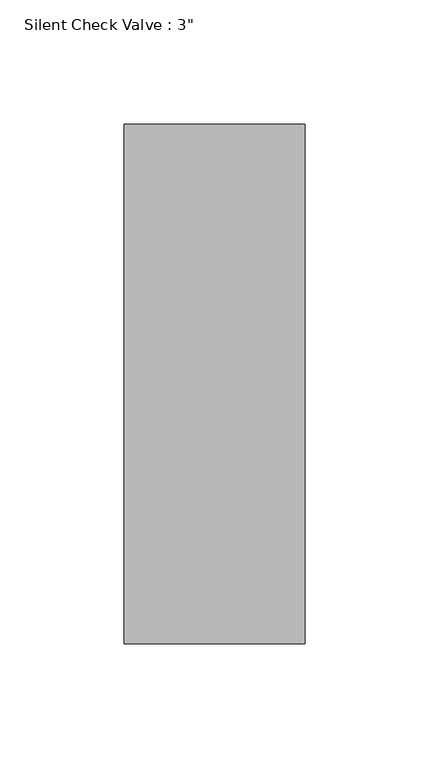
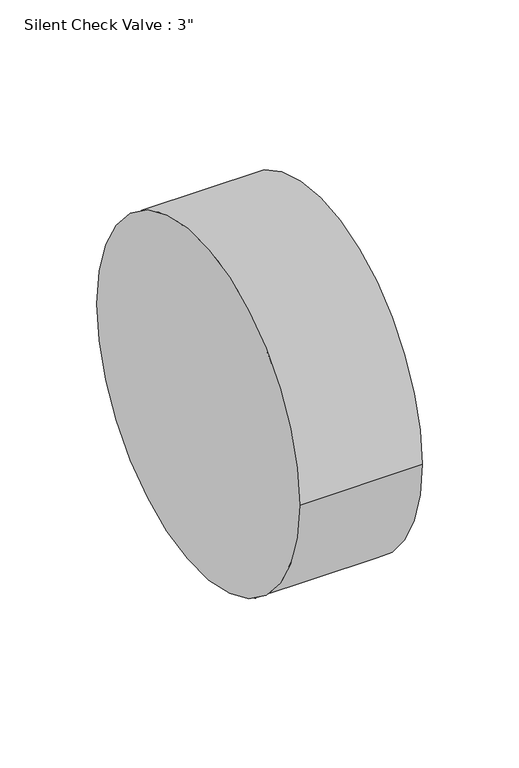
"""IFC4 building model written with IfcOpenShell, lengths in millimetres: valve geometry."""

from ifc_helpers import new_model, si_unit, point, frame, origin, origin_2d, place, context, project, spatial, circle_curve, trimmed, segment, composite_curve, outline, extrude, source, transform, mapped, element, save


def valve_62ea0863(model_context):
    return source(origin(), model_context, "Body", "SweptSolid", [
        extrude(outline(composite_curve([segment(trimmed(circle_curve(origin_2d(), 104.775), [point((-104.775, 0.0))], [point((104.775, 0.0))], False, "CARTESIAN"), True, "CONTINUOUS"), segment(trimmed(circle_curve(origin_2d(), 104.775), [point((104.775, 0.0))], [point((-104.775, 0.0))], False, "CARTESIAN"), True, "CONTINUOUS")], self_intersect=False)), frame((-36.5125, 0.0, 0.0), z_axis=(1.0, 0.0, 0.0), x_axis=(0.0, 1.0, 0.0)), (0.0, 0.0, 1.0), 73.025),
    ])


if __name__ == "__main__":
    model = new_model("IFC4")
    model_context = context("Model", 3, world=origin())
    ifc_project = project(units=[si_unit("LENGTHUNIT", "METRE", prefix="MILLI")], contexts=[model_context])
    site = spatial("IfcSite", under=ifc_project)
    building = spatial("IfcBuilding", under=site)
    placement = place(None, origin())
    valve_shape = valve_62ea0863(model_context)
    element("IfcValve", 1, ObjectType="Silent Check Valve : 3\"", at=placement, inside=building, context=model_context, shape_type="MappedRepresentation", body=[
        mapped(valve_shape, transform((0.0, 0.0, 0.0), x_axis=(1.0, 0.0, 0.0), y_axis=(0.0, 1.0, 0.0), z_axis=(0.0, 0.0, 1.0))),
    ])
    save(model, "model.ifc")
